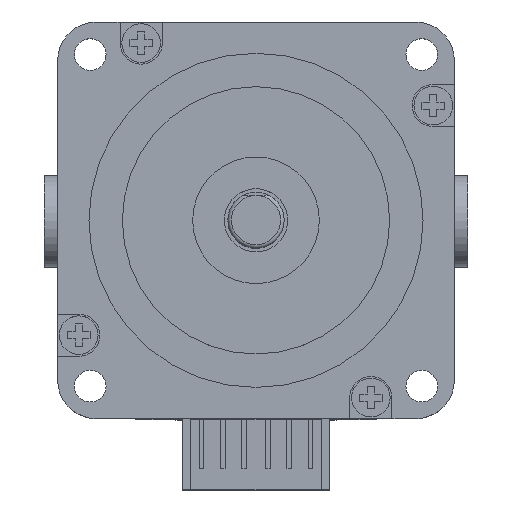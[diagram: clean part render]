
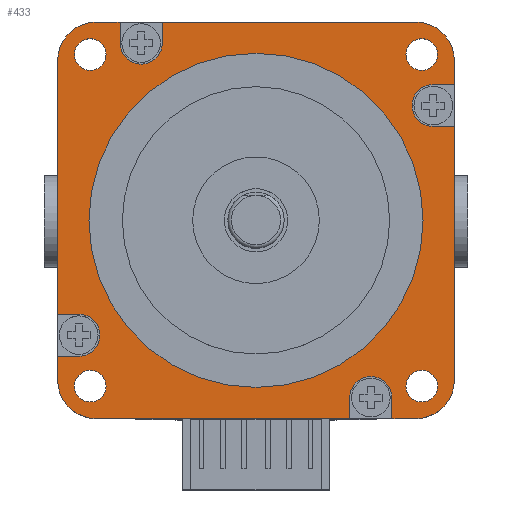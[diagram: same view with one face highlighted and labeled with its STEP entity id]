
A CAD part, top view. The second image highlights one B-rep face of the part: STEP entity #433.
In plain terms, the highlighted planar face has unit normal (0, 0, 1).
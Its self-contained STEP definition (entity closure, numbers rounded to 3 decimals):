
#433=ADVANCED_FACE('',(#1084,#1085,#1086,#1087,#1088,#1089),#704,.T.);
#704=PLANE('',#5106);
#944=CIRCLE('',#5093,23.75);
#945=CIRCLE('',#5094,2.25);
#946=CIRCLE('',#5095,2.25);
#947=CIRCLE('',#5096,2.25);
#948=CIRCLE('',#5097,2.25);
#949=CIRCLE('',#5098,5.5);
#950=CIRCLE('',#5099,3.);
#951=CIRCLE('',#5100,5.5);
#952=CIRCLE('',#5101,3.);
#953=CIRCLE('',#5102,5.5);
#954=CIRCLE('',#5103,3.);
#955=CIRCLE('',#5104,5.5);
#956=CIRCLE('',#5105,3.);
#1084=FACE_BOUND('',#1192,.T.);
#1085=FACE_BOUND('',#1193,.T.);
#1086=FACE_BOUND('',#1194,.T.);
#1087=FACE_BOUND('',#1195,.T.);
#1088=FACE_BOUND('',#1196,.T.);
#1089=FACE_BOUND('',#1197,.T.);
#1192=EDGE_LOOP('',(#1717));
#1193=EDGE_LOOP('',(#1718));
#1194=EDGE_LOOP('',(#1719));
#1195=EDGE_LOOP('',(#1720));
#1196=EDGE_LOOP('',(#1721));
#1197=EDGE_LOOP('',(#1722,#1723,#1724,#1725,#1726,#1727,#1728,#1729,#1730,
#1731,#1732,#1733,#1734,#1735,#1736,#1737,#1738,#1739,#1740,#1741,#1742,
#1743,#1744,#1745));
#1717=ORIENTED_EDGE('',*,*,#3555,.T.);
#1718=ORIENTED_EDGE('',*,*,#3556,.F.);
#1719=ORIENTED_EDGE('',*,*,#3557,.F.);
#1720=ORIENTED_EDGE('',*,*,#3558,.F.);
#1721=ORIENTED_EDGE('',*,*,#3559,.F.);
#1722=ORIENTED_EDGE('',*,*,#3560,.T.);
#1723=ORIENTED_EDGE('',*,*,#3561,.T.);
#1724=ORIENTED_EDGE('',*,*,#3562,.T.);
#1725=ORIENTED_EDGE('',*,*,#3563,.F.);
#1726=ORIENTED_EDGE('',*,*,#3564,.F.);
#1727=ORIENTED_EDGE('',*,*,#3565,.F.);
#1728=ORIENTED_EDGE('',*,*,#3566,.T.);
#1729=ORIENTED_EDGE('',*,*,#3567,.T.);
#1730=ORIENTED_EDGE('',*,*,#3568,.T.);
#1731=ORIENTED_EDGE('',*,*,#3569,.F.);
#1732=ORIENTED_EDGE('',*,*,#3570,.F.);
#1733=ORIENTED_EDGE('',*,*,#3571,.F.);
#1734=ORIENTED_EDGE('',*,*,#3572,.T.);
#1735=ORIENTED_EDGE('',*,*,#3573,.T.);
#1736=ORIENTED_EDGE('',*,*,#3551,.T.);
#1737=ORIENTED_EDGE('',*,*,#3574,.T.);
#1738=ORIENTED_EDGE('',*,*,#3575,.T.);
#1739=ORIENTED_EDGE('',*,*,#3576,.T.);
#1740=ORIENTED_EDGE('',*,*,#3547,.T.);
#1741=ORIENTED_EDGE('',*,*,#3577,.T.);
#1742=ORIENTED_EDGE('',*,*,#3578,.T.);
#1743=ORIENTED_EDGE('',*,*,#3579,.F.);
#1744=ORIENTED_EDGE('',*,*,#3580,.F.);
#1745=ORIENTED_EDGE('',*,*,#3581,.F.);
#3075=VERTEX_POINT('',#7329);
#3076=VERTEX_POINT('',#7331);
#3079=VERTEX_POINT('',#7337);
#3080=VERTEX_POINT('',#7339);
#3083=VERTEX_POINT('',#7347);
#3084=VERTEX_POINT('',#7349);
#3085=VERTEX_POINT('',#7351);
#3086=VERTEX_POINT('',#7353);
#3087=VERTEX_POINT('',#7355);
#3088=VERTEX_POINT('',#7357);
#3089=VERTEX_POINT('',#7358);
#3090=VERTEX_POINT('',#7360);
#3091=VERTEX_POINT('',#7362);
#3092=VERTEX_POINT('',#7364);
#3093=VERTEX_POINT('',#7366);
#3094=VERTEX_POINT('',#7368);
#3095=VERTEX_POINT('',#7370);
#3096=VERTEX_POINT('',#7372);
#3097=VERTEX_POINT('',#7374);
#3098=VERTEX_POINT('',#7376);
#3099=VERTEX_POINT('',#7378);
#3100=VERTEX_POINT('',#7380);
#3101=VERTEX_POINT('',#7382);
#3102=VERTEX_POINT('',#7385);
#3103=VERTEX_POINT('',#7387);
#3104=VERTEX_POINT('',#7390);
#3105=VERTEX_POINT('',#7392);
#3106=VERTEX_POINT('',#7394);
#3107=VERTEX_POINT('',#7396);
#3547=EDGE_CURVE('',#3076,#3075,#4158,.T.);
#3551=EDGE_CURVE('',#3080,#3079,#4162,.T.);
#3555=EDGE_CURVE('',#3083,#3083,#944,.T.);
#3556=EDGE_CURVE('',#3084,#3084,#945,.T.);
#3557=EDGE_CURVE('',#3085,#3085,#946,.T.);
#3558=EDGE_CURVE('',#3086,#3086,#947,.T.);
#3559=EDGE_CURVE('',#3087,#3087,#948,.T.);
#3560=EDGE_CURVE('',#3088,#3089,#4166,.T.);
#3561=EDGE_CURVE('',#3089,#3090,#949,.T.);
#3562=EDGE_CURVE('',#3090,#3091,#4167,.T.);
#3563=EDGE_CURVE('',#3092,#3091,#4168,.T.);
#3564=EDGE_CURVE('',#3093,#3092,#950,.T.);
#3565=EDGE_CURVE('',#3094,#3093,#4169,.T.);
#3566=EDGE_CURVE('',#3094,#3095,#4170,.T.);
#3567=EDGE_CURVE('',#3095,#3096,#951,.T.);
#3568=EDGE_CURVE('',#3096,#3097,#4171,.T.);
#3569=EDGE_CURVE('',#3098,#3097,#4172,.T.);
#3570=EDGE_CURVE('',#3099,#3098,#952,.T.);
#3571=EDGE_CURVE('',#3100,#3099,#4173,.T.);
#3572=EDGE_CURVE('',#3100,#3101,#4174,.T.);
#3573=EDGE_CURVE('',#3101,#3080,#953,.T.);
#3574=EDGE_CURVE('',#3079,#3102,#4175,.T.);
#3575=EDGE_CURVE('',#3102,#3103,#954,.T.);
#3576=EDGE_CURVE('',#3103,#3076,#4176,.T.);
#3577=EDGE_CURVE('',#3075,#3104,#955,.T.);
#3578=EDGE_CURVE('',#3104,#3105,#4177,.T.);
#3579=EDGE_CURVE('',#3106,#3105,#4178,.T.);
#3580=EDGE_CURVE('',#3107,#3106,#956,.T.);
#3581=EDGE_CURVE('',#3088,#3107,#4179,.T.);
#4158=LINE('',#7330,#4649);
#4162=LINE('',#7338,#4653);
#4166=LINE('',#7356,#4657);
#4167=LINE('',#7361,#4658);
#4168=LINE('',#7363,#4659);
#4169=LINE('',#7367,#4660);
#4170=LINE('',#7369,#4661);
#4171=LINE('',#7373,#4662);
#4172=LINE('',#7375,#4663);
#4173=LINE('',#7379,#4664);
#4174=LINE('',#7381,#4665);
#4175=LINE('',#7384,#4666);
#4176=LINE('',#7388,#4667);
#4177=LINE('',#7391,#4668);
#4178=LINE('',#7393,#4669);
#4179=LINE('',#7397,#4670);
#4649=VECTOR('',#5786,1.);
#4653=VECTOR('',#5790,1.);
#4657=VECTOR('',#5806,1.);
#4658=VECTOR('',#5809,1.);
#4659=VECTOR('',#5810,1.);
#4660=VECTOR('',#5813,1.);
#4661=VECTOR('',#5814,1.);
#4662=VECTOR('',#5817,1.);
#4663=VECTOR('',#5818,1.);
#4664=VECTOR('',#5821,1.);
#4665=VECTOR('',#5822,1.);
#4666=VECTOR('',#5825,1.);
#4667=VECTOR('',#5828,1.);
#4668=VECTOR('',#5831,1.);
#4669=VECTOR('',#5832,1.);
#4670=VECTOR('',#5835,1.);
#5093=AXIS2_PLACEMENT_3D('',#7346,#5796,#5797);
#5094=AXIS2_PLACEMENT_3D('',#7348,#5798,#5799);
#5095=AXIS2_PLACEMENT_3D('',#7350,#5800,#5801);
#5096=AXIS2_PLACEMENT_3D('',#7352,#5802,#5803);
#5097=AXIS2_PLACEMENT_3D('',#7354,#5804,#5805);
#5098=AXIS2_PLACEMENT_3D('',#7359,#5807,#5808);
#5099=AXIS2_PLACEMENT_3D('',#7365,#5811,#5812);
#5100=AXIS2_PLACEMENT_3D('',#7371,#5815,#5816);
#5101=AXIS2_PLACEMENT_3D('',#7377,#5819,#5820);
#5102=AXIS2_PLACEMENT_3D('',#7383,#5823,#5824);
#5103=AXIS2_PLACEMENT_3D('',#7386,#5826,#5827);
#5104=AXIS2_PLACEMENT_3D('',#7389,#5829,#5830);
#5105=AXIS2_PLACEMENT_3D('',#7395,#5833,#5834);
#5106=AXIS2_PLACEMENT_3D('',#7398,#5836,#5837);
#5786=DIRECTION('',(-1.,0.,0.));
#5790=DIRECTION('',(-1.,0.,0.));
#5796=DIRECTION('',(0.,0.,-1.));
#5797=DIRECTION('',(1.,0.,0.));
#5798=DIRECTION('',(0.,0.,1.));
#5799=DIRECTION('',(1.,0.,0.));
#5800=DIRECTION('',(0.,0.,1.));
#5801=DIRECTION('',(1.,0.,0.));
#5802=DIRECTION('',(0.,0.,1.));
#5803=DIRECTION('',(1.,0.,0.));
#5804=DIRECTION('',(0.,0.,1.));
#5805=DIRECTION('',(1.,0.,0.));
#5806=DIRECTION('',(0.,-1.,0.));
#5807=DIRECTION('',(0.,0.,1.));
#5808=DIRECTION('',(1.,0.,0.));
#5809=DIRECTION('',(1.,0.,0.));
#5810=DIRECTION('',(0.,-1.,0.));
#5811=DIRECTION('',(0.,0.,1.));
#5812=DIRECTION('',(-1.,0.,0.));
#5813=DIRECTION('',(0.,1.,0.));
#5814=DIRECTION('',(1.,0.,0.));
#5815=DIRECTION('',(0.,0.,1.));
#5816=DIRECTION('',(1.,0.,0.));
#5817=DIRECTION('',(0.,1.,0.));
#5818=DIRECTION('',(1.,0.,0.));
#5819=DIRECTION('',(0.,0.,1.));
#5820=DIRECTION('',(0.,-1.,0.));
#5821=DIRECTION('',(-1.,0.,0.));
#5822=DIRECTION('',(0.,1.,0.));
#5823=DIRECTION('',(0.,0.,1.));
#5824=DIRECTION('',(1.,0.,0.));
#5825=DIRECTION('',(0.,-1.,0.));
#5826=DIRECTION('',(0.,0.,-1.));
#5827=DIRECTION('',(1.,0.,0.));
#5828=DIRECTION('',(0.,1.,0.));
#5829=DIRECTION('',(0.,0.,1.));
#5830=DIRECTION('',(1.,0.,0.));
#5831=DIRECTION('',(0.,-1.,0.));
#5832=DIRECTION('',(-1.,0.,0.));
#5833=DIRECTION('',(0.,0.,1.));
#5834=DIRECTION('',(0.,1.,0.));
#5835=DIRECTION('',(1.,0.,0.));
#5836=DIRECTION('',(0.,0.,1.));
#5837=DIRECTION('',(1.,0.,0.));
#7329=CARTESIAN_POINT('',(-22.7,28.2,0.));
#7330=CARTESIAN_POINT('',(28.2,28.2,0.));
#7331=CARTESIAN_POINT('',(-19.324,28.2,0.));
#7337=CARTESIAN_POINT('',(-13.324,28.2,0.));
#7338=CARTESIAN_POINT('',(28.2,28.2,0.));
#7339=CARTESIAN_POINT('',(22.7,28.2,0.));
#7346=CARTESIAN_POINT('',(0.,0.,0.));
#7347=CARTESIAN_POINT('',(23.75,0.,0.));
#7348=CARTESIAN_POINT('',(23.57,-23.57,0.));
#7349=CARTESIAN_POINT('',(25.82,-23.57,0.));
#7350=CARTESIAN_POINT('',(23.57,23.57,0.));
#7351=CARTESIAN_POINT('',(25.82,23.57,0.));
#7352=CARTESIAN_POINT('',(-23.57,23.57,0.));
#7353=CARTESIAN_POINT('',(-21.32,23.57,0.));
#7354=CARTESIAN_POINT('',(-23.57,-23.57,0.));
#7355=CARTESIAN_POINT('',(-21.32,-23.57,0.));
#7356=CARTESIAN_POINT('',(-28.2,28.2,0.));
#7357=CARTESIAN_POINT('',(-28.2,-19.324,0.));
#7358=CARTESIAN_POINT('',(-28.2,-22.7,0.));
#7359=CARTESIAN_POINT('',(-22.7,-22.7,0.));
#7360=CARTESIAN_POINT('',(-22.7,-28.2,0.));
#7361=CARTESIAN_POINT('',(-28.2,-28.2,0.));
#7362=CARTESIAN_POINT('',(13.324,-28.2,0.));
#7363=CARTESIAN_POINT('',(13.324,-25.2,0.));
#7364=CARTESIAN_POINT('',(13.324,-25.2,0.));
#7365=CARTESIAN_POINT('',(16.324,-25.2,0.));
#7366=CARTESIAN_POINT('',(19.324,-25.2,0.));
#7367=CARTESIAN_POINT('',(19.324,-28.2,0.));
#7368=CARTESIAN_POINT('',(19.324,-28.2,0.));
#7369=CARTESIAN_POINT('',(-28.2,-28.2,0.));
#7370=CARTESIAN_POINT('',(22.7,-28.2,0.));
#7371=CARTESIAN_POINT('',(22.7,-22.7,0.));
#7372=CARTESIAN_POINT('',(28.2,-22.7,0.));
#7373=CARTESIAN_POINT('',(28.2,-28.2,0.));
#7374=CARTESIAN_POINT('',(28.2,13.324,0.));
#7375=CARTESIAN_POINT('',(25.2,13.324,0.));
#7376=CARTESIAN_POINT('',(25.2,13.324,0.));
#7377=CARTESIAN_POINT('',(25.2,16.324,0.));
#7378=CARTESIAN_POINT('',(25.2,19.324,0.));
#7379=CARTESIAN_POINT('',(28.2,19.324,0.));
#7380=CARTESIAN_POINT('',(28.2,19.324,0.));
#7381=CARTESIAN_POINT('',(28.2,-28.2,0.));
#7382=CARTESIAN_POINT('',(28.2,22.7,0.));
#7383=CARTESIAN_POINT('',(22.7,22.7,0.));
#7384=CARTESIAN_POINT('',(-13.324,28.2,0.));
#7385=CARTESIAN_POINT('',(-13.324,25.2,0.));
#7386=CARTESIAN_POINT('',(-16.324,25.2,0.));
#7387=CARTESIAN_POINT('',(-19.324,25.2,0.));
#7388=CARTESIAN_POINT('',(-19.324,25.2,0.));
#7389=CARTESIAN_POINT('',(-22.7,22.7,0.));
#7390=CARTESIAN_POINT('',(-28.2,22.7,0.));
#7391=CARTESIAN_POINT('',(-28.2,28.2,0.));
#7392=CARTESIAN_POINT('',(-28.2,-13.324,0.));
#7393=CARTESIAN_POINT('',(-25.2,-13.324,0.));
#7394=CARTESIAN_POINT('',(-25.2,-13.324,0.));
#7395=CARTESIAN_POINT('',(-25.2,-16.324,0.));
#7396=CARTESIAN_POINT('',(-25.2,-19.324,0.));
#7397=CARTESIAN_POINT('',(-28.2,-19.324,0.));
#7398=CARTESIAN_POINT('',(28.2,-28.2,0.));
